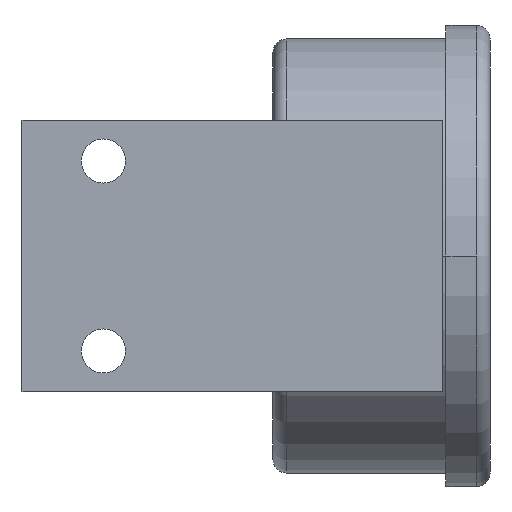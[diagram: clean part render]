
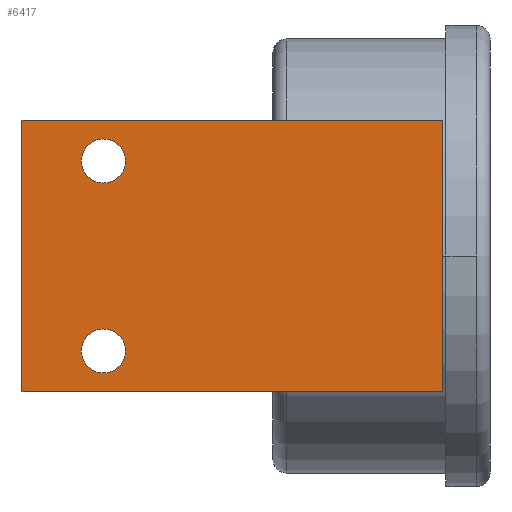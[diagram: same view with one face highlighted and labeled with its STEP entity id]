
A CAD part, front view. The second image highlights one B-rep face of the part: STEP entity #6417.
In plain terms, the highlighted planar face has unit normal (0, -1, 0).
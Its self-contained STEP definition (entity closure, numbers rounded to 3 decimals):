
#1711=CARTESIAN_POINT('',(-19.0,-37.5,17.25));
#1712=VERTEX_POINT('',#1711);
#1728=CARTESIAN_POINT('',(-19.0,-37.5,10.75));
#1729=VERTEX_POINT('',#1728);
#1736=CARTESIAN_POINT('',(-19.0,-37.5,14.0));
#1737=DIRECTION('',(0.0,1.0,0.0));
#1738=DIRECTION('',(0.0,0.0,1.0));
#1739=AXIS2_PLACEMENT_3D('',#1736,#1737,#1738);
#1740=CIRCLE('',#1739,3.25);
#1741=EDGE_CURVE('',#1712,#1729,#1740,.T.);
#1795=CARTESIAN_POINT('',(-19.0,-37.5,-10.75));
#1796=VERTEX_POINT('',#1795);
#1812=CARTESIAN_POINT('',(-19.0,-37.5,-17.25));
#1813=VERTEX_POINT('',#1812);
#1820=CARTESIAN_POINT('',(-19.0,-37.5,-14.0));
#1821=DIRECTION('',(0.0,1.0,0.0));
#1822=DIRECTION('',(0.0,0.0,1.0));
#1823=AXIS2_PLACEMENT_3D('',#1820,#1821,#1822);
#1824=CIRCLE('',#1823,3.25);
#1825=EDGE_CURVE('',#1796,#1813,#1824,.T.);
#5136=CARTESIAN_POINT('',(-19.0,-37.5,-14.0));
#5137=DIRECTION('',(0.0,1.0,0.0));
#5138=DIRECTION('',(0.0,0.0,1.0));
#5139=AXIS2_PLACEMENT_3D('',#5136,#5137,#5138);
#5140=CIRCLE('',#5139,3.25);
#5141=EDGE_CURVE('',#1813,#1796,#5140,.T.);
#5198=CARTESIAN_POINT('',(-19.0,-37.5,14.0));
#5199=DIRECTION('',(0.0,1.0,0.0));
#5200=DIRECTION('',(0.0,0.0,1.0));
#5201=AXIS2_PLACEMENT_3D('',#5198,#5199,#5200);
#5202=CIRCLE('',#5201,3.25);
#5203=EDGE_CURVE('',#1729,#1712,#5202,.T.);
#6342=CARTESIAN_POINT('',(-31.0,-37.5,-20.0));
#6343=VERTEX_POINT('',#6342);
#6350=CARTESIAN_POINT('',(-31.0,-37.5,20.0));
#6351=VERTEX_POINT('',#6350);
#6352=CARTESIAN_POINT('',(-31.0,-37.5,20.0));
#6353=DIRECTION('',(0.0,0.0,-1.0));
#6354=VECTOR('',#6353,40.0);
#6355=LINE('',#6352,#6354);
#6356=EDGE_CURVE('',#6351,#6343,#6355,.T.);
#6379=CARTESIAN_POINT('',(-31.0,-37.5,0.0));
#6380=DIRECTION('',(0.0,-1.0,0.0));
#6381=DIRECTION('',(0.0,0.0,-1.0));
#6382=AXIS2_PLACEMENT_3D('',#6379,#6380,#6381);
#6383=PLANE('',#6382);
#6384=CARTESIAN_POINT('',(31.0,-37.5,-20.0));
#6385=VERTEX_POINT('',#6384);
#6386=CARTESIAN_POINT('',(-31.0,-37.5,-20.0));
#6387=DIRECTION('',(1.0,0.0,0.0));
#6388=VECTOR('',#6387,62.0);
#6389=LINE('',#6386,#6388);
#6390=EDGE_CURVE('',#6343,#6385,#6389,.T.);
#6391=ORIENTED_EDGE('',*,*,#6390,.T.);
#6392=CARTESIAN_POINT('',(31.0,-37.5,20.0));
#6393=VERTEX_POINT('',#6392);
#6394=CARTESIAN_POINT('',(31.0,-37.5,20.0));
#6395=DIRECTION('',(0.0,0.0,-1.0));
#6396=VECTOR('',#6395,40.0);
#6397=LINE('',#6394,#6396);
#6398=EDGE_CURVE('',#6393,#6385,#6397,.T.);
#6399=ORIENTED_EDGE('',*,*,#6398,.F.);
#6400=CARTESIAN_POINT('',(31.0,-37.5,20.0));
#6401=DIRECTION('',(-1.0,0.0,0.0));
#6402=VECTOR('',#6401,62.0);
#6403=LINE('',#6400,#6402);
#6404=EDGE_CURVE('',#6393,#6351,#6403,.T.);
#6405=ORIENTED_EDGE('',*,*,#6404,.T.);
#6406=ORIENTED_EDGE('',*,*,#6356,.T.);
#6407=EDGE_LOOP('',(#6391,#6399,#6405,#6406));
#6408=FACE_OUTER_BOUND('',#6407,.T.);
#6409=ORIENTED_EDGE('',*,*,#5141,.T.);
#6410=ORIENTED_EDGE('',*,*,#1825,.T.);
#6411=EDGE_LOOP('',(#6409,#6410));
#6412=FACE_BOUND('',#6411,.T.);
#6413=ORIENTED_EDGE('',*,*,#5203,.T.);
#6414=ORIENTED_EDGE('',*,*,#1741,.T.);
#6415=EDGE_LOOP('',(#6413,#6414));
#6416=FACE_BOUND('',#6415,.T.);
#6417=ADVANCED_FACE('',(#6408,#6412,#6416),#6383,.T.);
